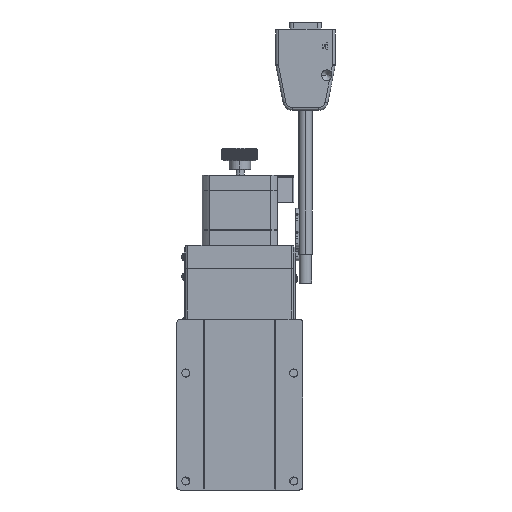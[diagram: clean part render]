
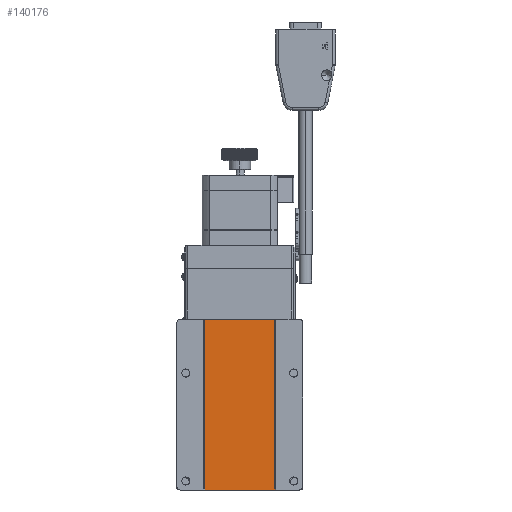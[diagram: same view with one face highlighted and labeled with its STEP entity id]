
A CAD part, front view. The second image highlights one B-rep face of the part: STEP entity #140176.
In plain terms, the highlighted planar face has unit normal (0, -1, 0).
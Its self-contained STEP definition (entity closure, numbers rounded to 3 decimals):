
#23070 = LINE ( 'NONE', #49742, #170637 ) ;
#32977 = CARTESIAN_POINT ( 'NONE',  ( -47.5, -5.3, 19.5 ) ) ;
#49742 = CARTESIAN_POINT ( 'NONE',  ( 47.5, -5.3, 19.5 ) ) ;
#66734 = CARTESIAN_POINT ( 'NONE',  ( 47.5, -5.3, 19.5 ) ) ;
#77480 = LINE ( 'NONE', #32977, #238782 ) ;
#80097 = AXIS2_PLACEMENT_3D ( 'NONE', #98513, #234935, #119337 ) ;
#86749 = VERTEX_POINT ( 'NONE', #121328 ) ;
#89014 = EDGE_CURVE ( 'NONE', #104492, #291998, #115105, .T. ) ;
#98513 = CARTESIAN_POINT ( 'NONE',  ( 47.5, -5.3, 19.5 ) ) ;
#99463 = LINE ( 'NONE', #189931, #233995 ) ;
#101205 = DIRECTION ( 'NONE',  ( 0., 0., -1. ) ) ;
#103327 = ORIENTED_EDGE ( 'NONE', *, *, #89014, .T. ) ;
#104492 = VERTEX_POINT ( 'NONE', #66734 ) ;
#113596 = DIRECTION ( 'NONE',  ( 0., 0., -1. ) ) ;
#115105 = LINE ( 'NONE', #223429, #190699 ) ;
#119337 = DIRECTION ( 'NONE',  ( 0., 0., -1. ) ) ;
#121328 = CARTESIAN_POINT ( 'NONE',  ( -47.5, -5.3, -19.5 ) ) ;
#140176 = ADVANCED_FACE ( 'NONE', ( #163788 ), #209770, .F. ) ;
#148482 = CARTESIAN_POINT ( 'NONE',  ( -47.5, -5.3, 19.5 ) ) ;
#158116 = CARTESIAN_POINT ( 'NONE',  ( 47.5, -5.3, -19.5 ) ) ;
#162204 = EDGE_CURVE ( 'NONE', #240651, #86749, #99463, .T. ) ;
#163788 = FACE_OUTER_BOUND ( 'NONE', #232766, .T. ) ;
#170637 = VECTOR ( 'NONE', #113596, 1000. ) ;
#187566 = ORIENTED_EDGE ( 'NONE', *, *, #279888, .T. ) ;
#189931 = CARTESIAN_POINT ( 'NONE',  ( 47.5, -5.3, -19.5 ) ) ;
#190699 = VECTOR ( 'NONE', #206983, 1000. ) ;
#206983 = DIRECTION ( 'NONE',  ( -1., 0., 0. ) ) ;
#209770 = PLANE ( 'NONE',  #80097 ) ;
#223429 = CARTESIAN_POINT ( 'NONE',  ( 47.5, -5.3, 19.5 ) ) ;
#226649 = ORIENTED_EDGE ( 'NONE', *, *, #162204, .F. ) ;
#232766 = EDGE_LOOP ( 'NONE', ( #187566, #226649, #270627, #103327 ) ) ;
#233995 = VECTOR ( 'NONE', #280436, 1000. ) ;
#234935 = DIRECTION ( 'NONE',  ( 0., 1., 0. ) ) ;
#238782 = VECTOR ( 'NONE', #101205, 1000. ) ;
#240651 = VERTEX_POINT ( 'NONE', #158116 ) ;
#270627 = ORIENTED_EDGE ( 'NONE', *, *, #272923, .F. ) ;
#272923 = EDGE_CURVE ( 'NONE', #104492, #240651, #23070, .T. ) ;
#279888 = EDGE_CURVE ( 'NONE', #291998, #86749, #77480, .T. ) ;
#280436 = DIRECTION ( 'NONE',  ( -1., 0., 0. ) ) ;
#291998 = VERTEX_POINT ( 'NONE', #148482 ) ;
